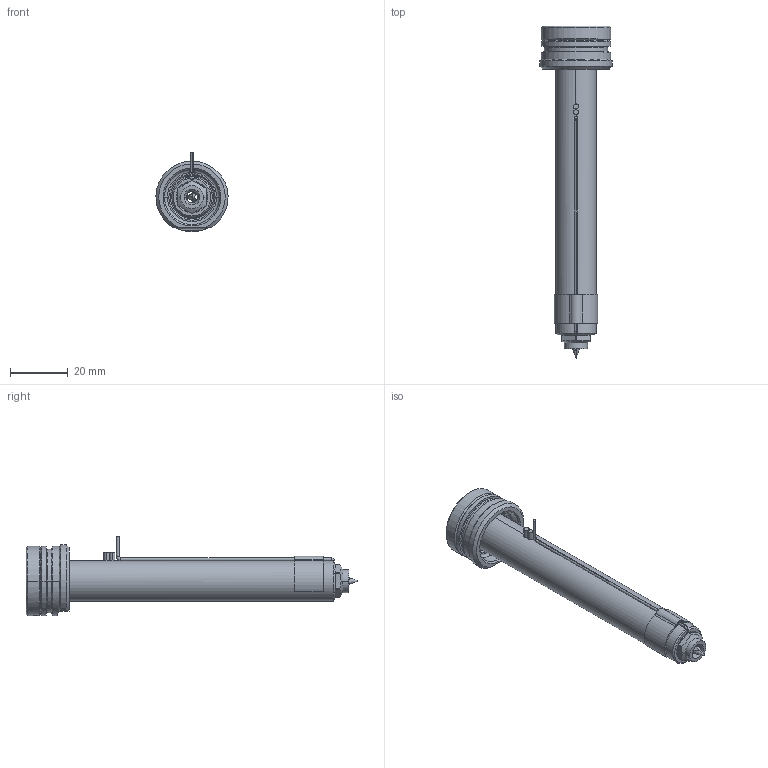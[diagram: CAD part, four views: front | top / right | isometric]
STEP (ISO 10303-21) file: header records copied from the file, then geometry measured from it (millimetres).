
FILE_DESCRIPTION((''),'2;1');
FILE_NAME('EO04_PG-BL_STD_100_SW','2024-02-19T10:57:59',('sundharh'),(''),'CREO PARAMETRIC BY PTC INC, 2023154','CREO PARAMETRIC BY PTC INC, 2023154','');
FILE_SCHEMA(('CONFIG_CONTROL_DESIGN'));
Length unit declared in the file: millimetre
Products named in the file (1): EO04_PG-BL_STD_100_SW
Bounding box: 24.99 x 115 x 27.5 mm (x, y, z)
Volume: 19260.7 mm3; surface area: 9776.7 mm2
Topology: 2 solids, 2 shells, 221 faces, 595 edges, 363 vertices
Faces by surface type: cylinder 84, plane 58, cone 44, torus 22, bspline 11, sphere 2
Entity records: 8201 total; most frequent: CARTESIAN_POINT 2619, DIRECTION 1211, ORIENTED_EDGE 1174, EDGE_CURVE 587, AXIS2_PLACEMENT_3D 507, VERTEX_POINT 363, CIRCLE 297, EDGE_LOOP 236
